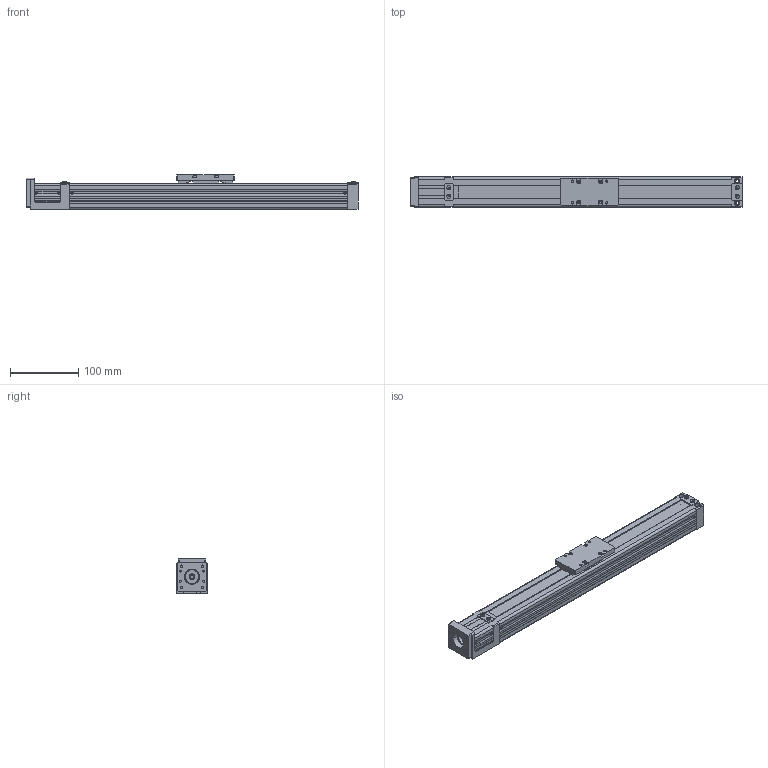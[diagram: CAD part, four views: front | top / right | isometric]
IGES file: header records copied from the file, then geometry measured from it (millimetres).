
Global section: file name: No Iges File Name specified; native system: AutoDesk Inventor R10; preprocessor: AutoDesk Inventor Iges Exporter R10; author: No Author specified; organization: No Organization specified; date: 20110617.144839; units: millimetre
Bounding box: 486 x 45 x 50 mm (x, y, z)
Surface area: 195707.9 mm2 (no closed solid volume)
Topology: 0 solids, 0 shells, 813 faces, 5386 edges, 5366 vertices
Faces by surface type: bspline 813
